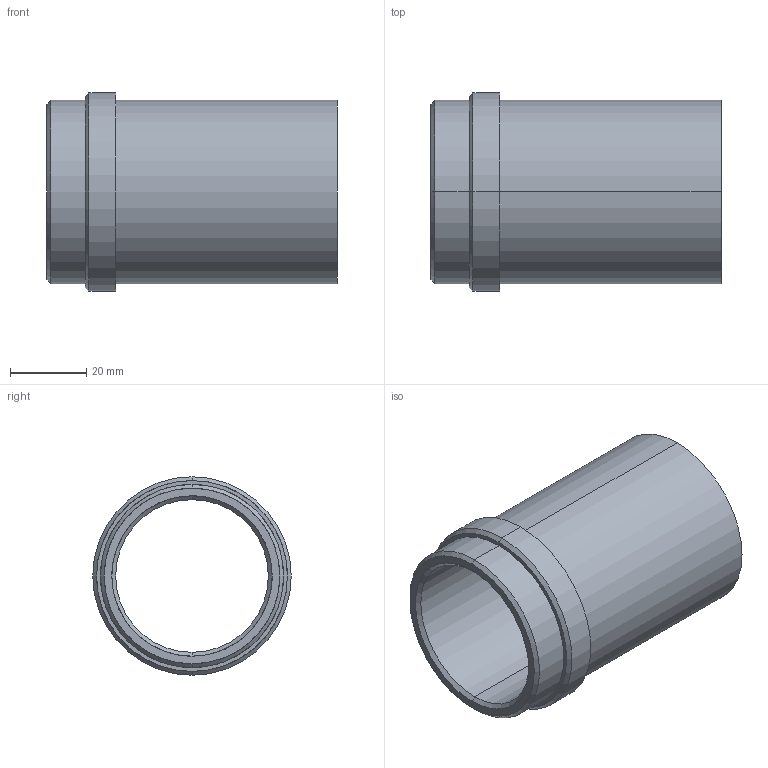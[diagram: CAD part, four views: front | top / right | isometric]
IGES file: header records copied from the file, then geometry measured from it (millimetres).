
Start section: START RECORD GO HERE.
Global section: file name: 358-40x76.igs; native system: DASSAULT SYSTEMES CATIA V5 R20 - www.3ds.com; preprocessor: CATIA Version 5 Release 20 ; author: Utente; organization: NB04-ASUS; date: 20210409.165515; units: millimetre
Bounding box: 76 x 52 x 52 mm (x, y, z)
Surface area: 22480.6 mm2 (no closed solid volume)
Topology: 0 solids, 0 shells, 20 faces, 128 edges, 128 vertices
Faces by surface type: revolution 16, plane 4
